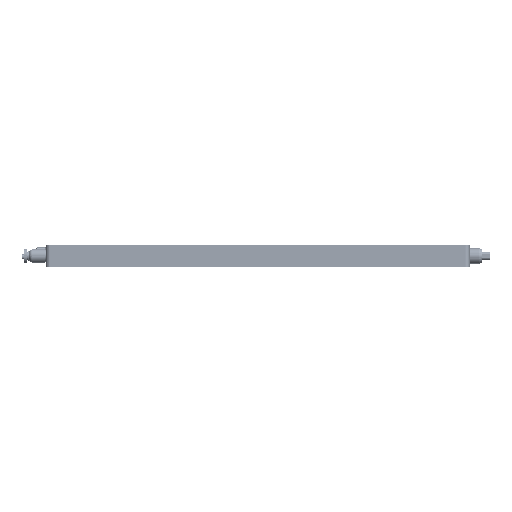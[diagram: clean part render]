
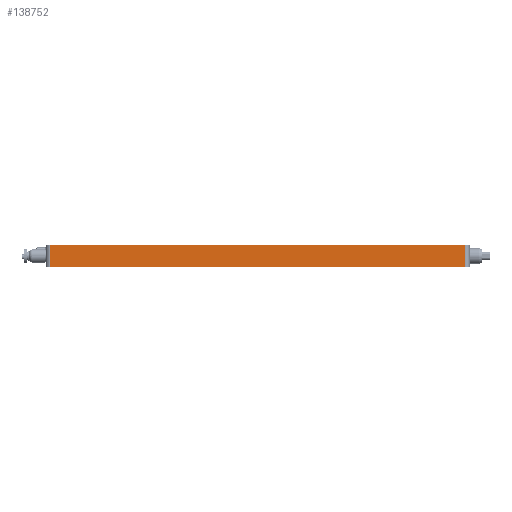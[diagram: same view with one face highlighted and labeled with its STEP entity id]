
A CAD part, left-side view. The second image highlights one B-rep face of the part: STEP entity #138752.
In plain terms, the highlighted planar face has unit normal (-1, 0, 0).
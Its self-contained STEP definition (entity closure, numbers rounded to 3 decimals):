
#1542 = CARTESIAN_POINT ( 'NONE',  ( -57.5, -132., -7. ) ) ;
#2071 = LINE ( 'NONE', #15154, #91030 ) ;
#7460 = VERTEX_POINT ( 'NONE', #94748 ) ;
#12009 = CARTESIAN_POINT ( 'NONE',  ( -57.5, -132., 7. ) ) ;
#13630 = CARTESIAN_POINT ( 'NONE',  ( -57.5, -135., 7. ) ) ;
#15154 = CARTESIAN_POINT ( 'NONE',  ( -57.5, -135., -7. ) ) ;
#36926 = LINE ( 'NONE', #150585, #128137 ) ;
#43455 = EDGE_CURVE ( 'NONE', #45246, #7460, #158916, .T. ) ;
#45246 = VERTEX_POINT ( 'NONE', #148677 ) ;
#47967 = LINE ( 'NONE', #12009, #130288 ) ;
#62643 = FACE_OUTER_BOUND ( 'NONE', #107624, .T. ) ;
#63692 = EDGE_CURVE ( 'NONE', #152995, #160719, #47967, .T. ) ;
#69784 = CARTESIAN_POINT ( 'NONE',  ( -57.5, 132., 7. ) ) ;
#76964 = DIRECTION ( 'NONE',  ( 0., -1., 0. ) ) ;
#78831 = VECTOR ( 'NONE', #96770, 1000. ) ;
#88754 = DIRECTION ( 'NONE',  ( 0., -1., 0. ) ) ;
#91030 = VECTOR ( 'NONE', #88754, 1000. ) ;
#94748 = CARTESIAN_POINT ( 'NONE',  ( -57.5, 132., -7. ) ) ;
#96770 = DIRECTION ( 'NONE',  ( 0., 0., -1. ) ) ;
#97945 = ORIENTED_EDGE ( 'NONE', *, *, #152597, .F. ) ;
#98636 = DIRECTION ( 'NONE',  ( 0., 0., 1. ) ) ;
#101042 = DIRECTION ( 'NONE',  ( 0., 0., -1. ) ) ;
#107624 = EDGE_LOOP ( 'NONE', ( #97945, #150886, #110384, #108063 ) ) ;
#108063 = ORIENTED_EDGE ( 'NONE', *, *, #63692, .T. ) ;
#108888 = CARTESIAN_POINT ( 'NONE',  ( -57.5, -132., 7. ) ) ;
#110384 = ORIENTED_EDGE ( 'NONE', *, *, #150884, .T. ) ;
#113338 = DIRECTION ( 'NONE',  ( 1., 0., 0. ) ) ;
#125600 = PLANE ( 'NONE',  #160326 ) ;
#128137 = VECTOR ( 'NONE', #76964, 1000. ) ;
#130288 = VECTOR ( 'NONE', #98636, 1000. ) ;
#138752 = ADVANCED_FACE ( 'NONE', ( #62643 ), #125600, .F. ) ;
#148677 = CARTESIAN_POINT ( 'NONE',  ( -57.5, 132., 7. ) ) ;
#150585 = CARTESIAN_POINT ( 'NONE',  ( -57.5, -135., 7. ) ) ;
#150884 = EDGE_CURVE ( 'NONE', #7460, #152995, #2071, .T. ) ;
#150886 = ORIENTED_EDGE ( 'NONE', *, *, #43455, .T. ) ;
#152597 = EDGE_CURVE ( 'NONE', #45246, #160719, #36926, .T. ) ;
#152995 = VERTEX_POINT ( 'NONE', #1542 ) ;
#158916 = LINE ( 'NONE', #69784, #78831 ) ;
#160326 = AXIS2_PLACEMENT_3D ( 'NONE', #13630, #113338, #101042 ) ;
#160719 = VERTEX_POINT ( 'NONE', #108888 ) ;
